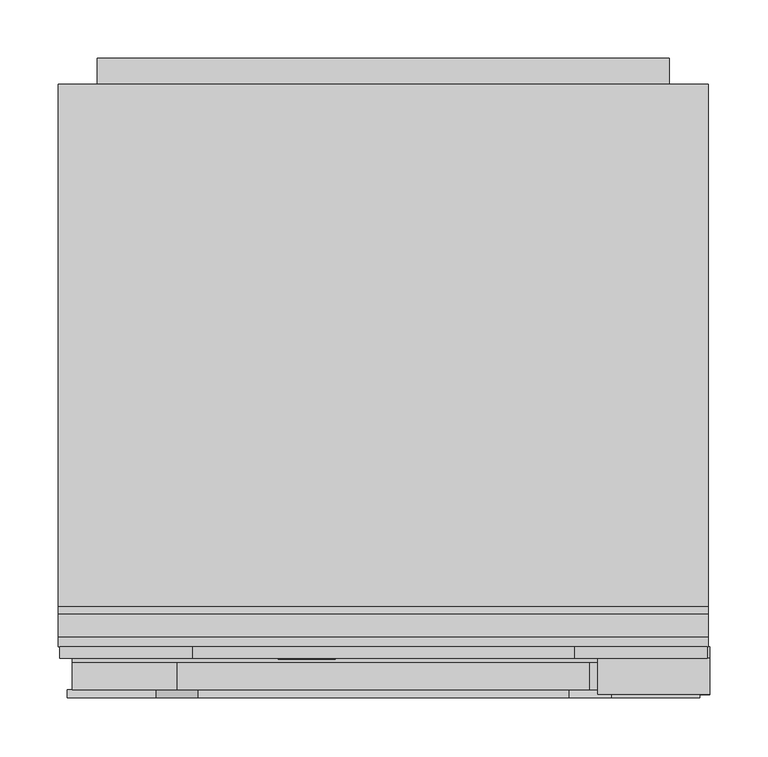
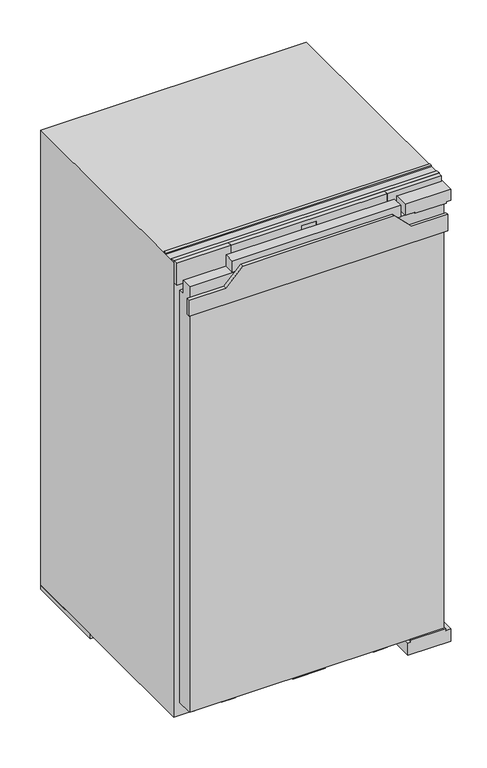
"""IFC4 building model written with IfcOpenShell, lengths in millimetres: proxy geometry, 11641020_EU1_K7234E : 36723400_EU1_11641020_K7234E."""

import ifcopenshell
import ifcopenshell.guid

model = None  # the IFC model being written
_history = None  # IfcOwnerHistory: only IFC2X3 demands one
_inside = {}  # id of a spatial element -> (the spatial element, [elements in it])
_under = {}  # id of a project, library or spatial element -> (it, [spatial elements below it])
_declared = {}  # id of a project -> (the project, [libraries it declares])
_typed = {}  # id of a type object -> (the type object, [elements of that type])
_made_of = {}  # id of a material, layer set ... -> (it, [elements and type objects made of it])


def new_model(schema):
    """Start an empty IFC model of exactly this schema.

    Asked for "IFC4X3", IfcOpenShell would pick the latest addendum, in which some entities
    have other attributes; the version numbers below select the first issue.
    IFC2X3 requires an IfcOwnerHistory on every rooted entity: one is made here for all.
    """
    global model, _history
    if schema == "IFC4X3":
        model = ifcopenshell.file(schema_version=(4, 3, 0, 0))
    else:
        model = ifcopenshell.file(schema=schema)
    _inside.clear()
    _under.clear()
    _declared.clear()
    _typed.clear()
    _made_of.clear()
    _history = None
    if model.schema == "IFC2X3":
        org = make("IfcOrganization", Name="unknown")
        user = make(
            "IfcPersonAndOrganization",
            ThePerson=make("IfcPerson", FamilyName="unknown"),
            TheOrganization=org,
        )
        app = make(
            "IfcApplication",
            ApplicationDeveloper=org,
            Version="unknown",
            ApplicationFullName="unknown",
            ApplicationIdentifier="unknown",
        )
        _history = make(
            "IfcOwnerHistory",
            OwningUser=user,
            OwningApplication=app,
            ChangeAction="ADDED",
            CreationDate=0,
        )
    return model


def make(cls, **values):
    """One entity of the class cls with the attributes given. An attribute that is None is left unset."""
    return model.create_entity(
        cls, **{name: value for name, value in values.items() if value is not None}
    )


def rooted(cls, **values):
    """An entity with a GlobalId (a new one), such as an element, a storey or a relation."""
    return make(cls, GlobalId=ifcopenshell.guid.new(), OwnerHistory=_history, **values)


def si_unit(unit_type, name, prefix=None):
    """IfcSIUnit, for example si_unit("LENGTHUNIT", "METRE", prefix="MILLI")."""
    return make("IfcSIUnit", UnitType=unit_type, Prefix=prefix, Name=name)


def assignment(units):
    """IfcUnitAssignment: the units of a project."""
    return None if units is None else make("IfcUnitAssignment", Units=units)


def point(xyz):
    """IfcCartesianPoint."""
    return None if xyz is None else make("IfcCartesianPoint", Coordinates=xyz)


def direction(xyz):
    """IfcDirection."""
    return None if xyz is None else make("IfcDirection", DirectionRatios=xyz)


def frame(location, z_axis=None, x_axis=None):
    """IfcAxis2Placement3D, a coordinate frame: its origin and axes. An axis left out is left unset."""
    return make(
        "IfcAxis2Placement3D",
        Location=point(location),
        Axis=direction(z_axis),
        RefDirection=direction(x_axis),
    )


def frame_2d(location, x_axis=None):
    """IfcAxis2Placement2D, a coordinate frame in the plane: its origin and x axis."""
    return make(
        "IfcAxis2Placement2D", Location=point(location), RefDirection=direction(x_axis)
    )


def origin():
    """The frame at (0, 0, 0) with its axes left unset."""
    return frame((0.0, 0.0, 0.0))


def origin_with_axes():
    """The frame at (0, 0, 0) with the z axis (0, 0, 1) and the x axis (1, 0, 0) written out."""
    return frame((0.0, 0.0, 0.0), z_axis=(0.0, 0.0, 1.0), x_axis=(1.0, 0.0, 0.0))


def place(relative_to, where):
    """IfcLocalPlacement: puts the frame where relative to a parent placement (None: the world)."""
    return make(
        "IfcLocalPlacement", PlacementRelTo=relative_to, RelativePlacement=where
    )


def context(
    kind, dimensions, precision=None, world=None, true_north=None, identifier=None
):
    """IfcGeometricRepresentationContext, for example the 3D "Model" context."""
    return make(
        "IfcGeometricRepresentationContext",
        ContextIdentifier=identifier,
        ContextType=kind,
        CoordinateSpaceDimension=dimensions,
        Precision=precision,
        WorldCoordinateSystem=world,
        TrueNorth=true_north,
    )


def project(units=None, contexts=None):
    """IfcProject with its units and contexts."""
    return rooted(
        "IfcProject",
        Name="project",
        RepresentationContexts=contexts,
        UnitsInContext=assignment(units),
    )


def spatial(cls, under=None, at=None, **own):
    """A site, building, storey or space (cls), placed at a placement, below another one or the project."""
    s = rooted(cls, ObjectPlacement=at, **own)
    if under is not None:
        _under.setdefault(under.id(), (under, []))[1].append(s)
    return s


def polyline(points):
    """IfcPolyline through the points."""
    return make("IfcPolyline", Points=[point(p) for p in points])


def circle_curve(where, radius):
    """IfcCircle in the frame where."""
    return make("IfcCircle", Position=where, Radius=radius)


def ellipse_curve(where, semi_axis1, semi_axis2):
    """IfcEllipse in the frame where."""
    return make(
        "IfcEllipse", Position=where, SemiAxis1=semi_axis1, SemiAxis2=semi_axis2
    )


def trimmed(basis, trim1, trim2, sense, master):
    """IfcTrimmedCurve: the piece of a basis curve between two trims."""
    return make(
        "IfcTrimmedCurve",
        BasisCurve=basis,
        Trim1=trim1,
        Trim2=trim2,
        SenseAgreement=sense,
        MasterRepresentation=master,
    )


def segment(curve, same_sense, transition):
    """IfcCompositeCurveSegment."""
    return make(
        "IfcCompositeCurveSegment",
        Transition=transition,
        SameSense=same_sense,
        ParentCurve=curve,
    )


def composite_curve(segments, self_intersect=None):
    """IfcCompositeCurve: segments joined end to end."""
    return make("IfcCompositeCurve", Segments=segments, SelfIntersect=self_intersect)


def outline(outer, holes=None, kind="AREA"):
    """IfcArbitraryClosedProfileDef: a profile drawn as a closed curve; with holes, ...WithVoids."""
    if holes is None:
        return make("IfcArbitraryClosedProfileDef", ProfileType=kind, OuterCurve=outer)
    return make(
        "IfcArbitraryProfileDefWithVoids",
        ProfileType=kind,
        OuterCurve=outer,
        InnerCurves=holes,
    )


def extrude(swept, where, along, depth):
    """IfcExtrudedAreaSolid: the profile swept, set in the frame where, extruded along a direction by depth."""
    return make(
        "IfcExtrudedAreaSolid",
        SweptArea=swept,
        Position=where,
        ExtrudedDirection=direction(along),
        Depth=depth,
    )


def faces_of(points, faces, orient=None, outer=None):
    """IfcFace entities. A face is a list of loops; a loop is a list of indices into points, from 0.

    orient and outer hold one flag for each loop. By default every Orientation is true, the
    first loop of a face is its IfcFaceOuterBound and the others are IfcFaceBound.
    """
    made = []
    for i, loops in enumerate(faces):
        bounds = []
        for j, loop in enumerate(loops):
            is_outer = j == 0 if outer is None else outer[i][j]
            bounds.append(
                make(
                    "IfcFaceOuterBound" if is_outer else "IfcFaceBound",
                    Bound=make("IfcPolyLoop", Polygon=[points[k] for k in loop]),
                    Orientation=True if orient is None else orient[i][j],
                )
            )
        made.append(make("IfcFace", Bounds=bounds))
    return made


def faceted_brep(points, faces, orient=None, outer=None, voids=None):
    """IfcFacetedBrep: a solid bounded by flat faces; with voids (closed shells), ...WithVoids."""
    shared = [point(p) for p in points]
    hull = make("IfcClosedShell", CfsFaces=faces_of(shared, faces, orient, outer))
    if voids is None:
        return make("IfcFacetedBrep", Outer=hull)
    return make(
        "IfcFacetedBrepWithVoids",
        Outer=hull,
        Voids=[
            make(cls, CfsFaces=faces_of(shared, fs, o, b)) for cls, fs, o, b in voids
        ],
    )


def shape(context_of_items, identifier, shape_type, items):
    """IfcShapeRepresentation: the items that make up one representation, for example the "Body"."""
    return make(
        "IfcShapeRepresentation",
        ContextOfItems=context_of_items,
        RepresentationIdentifier=identifier,
        RepresentationType=shape_type,
        Items=items,
    )


def source(mapping_origin, context_of_items, identifier, shape_type, items):
    """IfcRepresentationMap: a shape defined once, which mapped items show again and again."""
    return make(
        "IfcRepresentationMap",
        MappingOrigin=mapping_origin,
        MappedRepresentation=shape(context_of_items, identifier, shape_type, items),
    )


def transform(
    local_origin,
    x_axis=None,
    y_axis=None,
    z_axis=None,
    scale=None,
    scale2=None,
    scale3=None,
    uniform=True,
):
    """IfcCartesianTransformationOperator3D, or its non-uniform kind. x_axis, y_axis, z_axis: its Axis1, 2, 3."""
    if uniform:
        return make(
            "IfcCartesianTransformationOperator3D",
            Axis1=direction(x_axis),
            Axis2=direction(y_axis),
            LocalOrigin=point(local_origin),
            Scale=scale,
            Axis3=direction(z_axis),
        )
    return make(
        "IfcCartesianTransformationOperator3DnonUniform",
        Axis1=direction(x_axis),
        Axis2=direction(y_axis),
        LocalOrigin=point(local_origin),
        Scale=scale,
        Axis3=direction(z_axis),
        Scale2=scale2,
        Scale3=scale3,
    )


def mapped(mapping_source, mapping_target):
    """IfcMappedItem: shows the shape of a source again, moved by a transform."""
    return make(
        "IfcMappedItem", MappingSource=mapping_source, MappingTarget=mapping_target
    )


def made_of(thing, what):
    """Note that an element or type object is made of a material, layer set ...; save() writes the relation."""
    if what is not None:
        _made_of.setdefault(what.id(), (what, []))[1].append(thing)
    return thing


def element(
    cls,
    number,
    at=None,
    inside=None,
    cuts=None,
    type_object=None,
    material=None,
    context=None,
    identifier="Body",
    shape_type=None,
    held_by="IfcProductDefinitionShape",
    body=None,
    shapes=None,
    **own,
):
    """One element of the class cls, such as IfcWall. Its Tag is "e" and its number.

    at: its placement. inside: the storey or other place that contains it. cuts: it is an
    opening in that element (IfcRelVoidsElement). A single representation is given by context,
    identifier, shape_type and body (its items); several are given by shapes. held_by: the class
    of the entity that holds the representations. save() writes the other relations.
    """
    e = rooted(cls, Tag="e%d" % number, ObjectPlacement=at, **own)
    if body is not None:
        shapes = [shape(context, identifier, shape_type, body)]
    if shapes is not None:
        e.Representation = make(held_by, Representations=shapes)
    if inside is not None:
        _inside.setdefault(inside.id(), (inside, []))[1].append(e)
    if cuts is not None:
        rooted(
            "IfcRelVoidsElement", RelatingBuildingElement=cuts, RelatedOpeningElement=e
        )
    if type_object is not None:
        _typed.setdefault(type_object.id(), (type_object, []))[1].append(e)
    return made_of(e, material)


def aggregate(whole, parts):
    """IfcRelAggregates: a whole, such as a stair, and the parts it consists of."""
    return rooted("IfcRelAggregates", RelatingObject=whole, RelatedObjects=parts)


def save(model, path):
    """Write the relations noted so far, then the file.

    IfcRelAggregates (storeys below a building ...), IfcRelContainedInSpatialStructure (elements
    in a storey), IfcRelDefinesByType, IfcRelAssociatesMaterial and IfcRelDeclares: one each for
    every whole, place, type object, material and project.
    """
    for whole, parts in _under.values():
        aggregate(whole, parts)
    for where, things in _inside.values():
        rooted(
            "IfcRelContainedInSpatialStructure",
            RelatedElements=things,
            RelatingStructure=where,
        )
    for kind, things in _typed.values():
        rooted("IfcRelDefinesByType", RelatedObjects=things, RelatingType=kind)
    for what, things in _made_of.values():
        rooted("IfcRelAssociatesMaterial", RelatedObjects=things, RelatingMaterial=what)
    for by, libraries in _declared.values():
        rooted("IfcRelDeclares", RelatingContext=by, RelatedDefinitions=libraries)
    model.write(path)


def plane_surface(at):
    """IfcPlane: the flat surface through the origin of the frame at, square to its z axis."""
    return make("IfcPlane", Position=at)


def cylinder_surface(at, radius):
    """IfcCylindricalSurface: all points at the distance radius from the z axis of the frame at."""
    return make("IfcCylindricalSurface", Position=at, Radius=radius)


def revolved_surface(curve, axis_point, axis_direction):
    """IfcSurfaceOfRevolution: the curve turned about the line through axis_point along axis_direction."""
    return make(
        "IfcSurfaceOfRevolution",
        SweptCurve=make("IfcArbitraryOpenProfileDef", ProfileType="CURVE", Curve=curve),
        AxisPosition=make("IfcAxis1Placement", Location=point(axis_point), Axis=direction(axis_direction)),
    )


def extruded_surface(curve, direction_of_extrusion, depth):
    """IfcSurfaceOfLinearExtrusion: the curve pushed along a direction by depth."""
    return make(
        "IfcSurfaceOfLinearExtrusion",
        SweptCurve=make("IfcArbitraryOpenProfileDef", ProfileType="CURVE", Curve=curve),
        ExtrudedDirection=direction(direction_of_extrusion),
        Depth=depth,
    )


def advanced_brep(points, edges, surfaces, faces):
    """IfcAdvancedBrep: a solid bounded by faces that lie on surfaces and meet in shared edges.

    An edge is (start, end): straight between two places in points (the first is 0);
    or (start, end, curve); or (start, end, curve, False) where it runs against its curve.
    A face is (place in surfaces, loops), or (place, loops, False) where it looks against
    its surface's normal. A loop lists edges by number (the first is 1), with a minus sign
    where the edge is run from its end to its start. The first loop is the outer one.
    """
    corners = [point(p) for p in points]
    vertices = [make("IfcVertexPoint", VertexGeometry=c) for c in corners]
    made = []
    for start, end, *more in edges:
        made.append(
            make(
                "IfcEdgeCurve",
                EdgeStart=vertices[start],
                EdgeEnd=vertices[end],
                EdgeGeometry=more[0] if more else make("IfcPolyline", Points=[corners[start], corners[end]]),
                SameSense=more[1] if len(more) > 1 else True,
            )
        )
    hull = []
    for where, loops, *sense in faces:
        bounds = []
        for j, loop in enumerate(loops):
            ring = [make("IfcOrientedEdge", EdgeElement=made[abs(k) - 1], Orientation=k > 0) for k in loop]
            bounds.append(
                make(
                    "IfcFaceOuterBound" if j == 0 else "IfcFaceBound",
                    Bound=make("IfcEdgeLoop", EdgeList=ring),
                    Orientation=True,
                )
            )
        hull.append(make("IfcAdvancedFace", Bounds=bounds, FaceSurface=surfaces[where], SameSense=sense[0] if sense else True))
    return make("IfcAdvancedBrep", Outer=make("IfcClosedShell", CfsFaces=hull))


def specialty_equipment_facdcad3(model_context):
    return source(origin(), model_context, "Body", "SolidModel", [
        advanced_brep(
        [(-46.64, 33.0, 993.896), (-46.64, 33.0, 994.704), (-41.288, 33.0, 994.704), (-50.6, 33.0, 994.704), (-48.4, 33.0, 992.0), (-41.424, 33.0, 993.896), (-43.84, 33.0, 993.896), (-45.744, 33.0, 993.0), (-46.64, 33.0, 995.728), (-46.64, 33.0, 996.6), (-45.272, 33.0, 996.6), (-45.272, 33.0, 995.728), (-46.64, 34.0, 993.896), (-45.744, 34.0, 993.0), (-43.84, 34.0, 993.896), (-41.424, 34.0, 993.896), (-48.4, 34.0, 992.0), (-50.6, 34.0, 994.704), (-41.288, 34.0, 994.704), (-46.64, 34.0, 994.704), (-46.64, 34.0, 995.728), (-45.272, 34.0, 995.728), (-45.272, 34.0, 996.6), (-46.64, 34.0, 996.6)],
        [
            (0, 1),
            (1, 2),
            (2, 3, ellipse_curve(frame((-45.944, 33.0, 994.704), z_axis=(0.0, -1.0, 0.0), x_axis=(-1.0, 0.0, 0.0)), 4.656, 3.848)),
            (3, 4, circle_curve(frame((-47.5039564, 33.0, 994.976), z_axis=(0.0, -1.0, 0.0), x_axis=(0.0, 0.0, -1.0)), 3.1079688)),
            (4, 5, circle_curve(frame((-46.0372064, 33.0, 997.088), z_axis=(0.0, -1.0, 0.0), x_axis=(0.0, 0.0, -1.0)), 5.6098607)),
            (5, 6),
            (6, 7, circle_curve(frame((-45.3529412, 33.0, 994.64), z_axis=(0.0, 1.0, 0.0), x_axis=(0.0, 0.0, -1.0)), 1.6859795)),
            (7, 0, circle_curve(frame((-45.744, 33.0, 993.896), z_axis=(0.0, 1.0, 0.0), x_axis=(0.0, 0.0, -1.0)), 0.896)),
            (8, 9),
            (9, 10, circle_curve(frame((-45.956, 33.0, 996.6), z_axis=(0.0, 1.0, 0.0), x_axis=(0.0, 0.0, -1.0)), 0.684)),
            (10, 11),
            (11, 8),
            (12, 13, circle_curve(frame((-45.744, 34.0, 993.896), z_axis=(0.0, -1.0, 0.0), x_axis=(0.0, 0.0, -1.0)), 0.896)),
            (13, 14, circle_curve(frame((-45.3529412, 34.0, 994.64), z_axis=(0.0, -1.0, 0.0), x_axis=(0.0, 0.0, -1.0)), 1.6859795)),
            (14, 15),
            (15, 16, circle_curve(frame((-46.0372064, 34.0, 997.088), z_axis=(0.0, 1.0, 0.0), x_axis=(0.0, 0.0, -1.0)), 5.6098607)),
            (16, 17, circle_curve(frame((-47.5039564, 34.0, 994.976), z_axis=(0.0, 1.0, 0.0), x_axis=(0.0, 0.0, -1.0)), 3.1079688)),
            (17, 18, ellipse_curve(frame((-45.944, 34.0, 994.704), z_axis=(0.0, 1.0, 0.0), x_axis=(-1.0, 0.0, 0.0)), 4.656, 3.848)),
            (18, 19),
            (19, 12),
            (20, 21),
            (21, 22),
            (22, 23, circle_curve(frame((-45.956, 34.0, 996.6), z_axis=(0.0, -1.0, 0.0), x_axis=(0.0, 0.0, -1.0)), 0.684)),
            (23, 20),
            (0, 12),
            (19, 1),
            (18, 2),
            (5, 15),
            (14, 6),
            (17, 3),
            (13, 7),
            (16, 4),
            (8, 20),
            (23, 9),
            (22, 10),
            (21, 11),
        ],
        [
            plane_surface(frame((-46.64, 33.0, 994.704), z_axis=(0.0, -1.0, 0.0), x_axis=(0.0, 0.0, 1.0))),
            plane_surface(frame((-46.64, 34.0, 994.704), z_axis=(0.0, 1.0, 0.0), x_axis=(0.0, 0.0, -1.0))),
            plane_surface(frame((-46.64, 33.0, 993.896), z_axis=(1.0, 0.0, 0.0), x_axis=(0.0, 1.0, 0.0))),
            plane_surface(frame((-46.64, 33.0, 994.704), z_axis=(0.0, 0.0, -1.0), x_axis=(0.0, 1.0, 0.0))),
            plane_surface(frame((-41.424, 33.0, 993.896), z_axis=(0.0, 0.0, 1.0), x_axis=(0.0, 1.0, 0.0))),
            extruded_surface(trimmed(ellipse_curve(frame((-45.944, 35.0, 994.704), z_axis=(0.0, -1.0, 0.0), x_axis=(-1.0, 0.0, 0.0)), 4.656, 3.848), [point((-41.288, 35.0, 994.704))], [point((-50.6, 35.0, 994.704))], True, "CARTESIAN"), (0.0, -1.0, 0.0), 1.0),
            revolved_surface(polyline([(-45.3529412, 34.0, 992.9540205), (-45.3529412, 33.0, 992.9540205)]), (-45.3529412, 34.0, 994.64), (0.0, 1.0, 0.0)),
            revolved_surface(polyline([(-45.744, 34.0, 993.0), (-45.744, 33.0, 993.0)]), (-45.744, 34.0, 993.896), (0.0, 1.0, 0.0)),
            cylinder_surface(frame((-47.5039564, 34.0, 994.976), z_axis=(0.0, -1.0, 0.0), x_axis=(0.0, 0.0, -1.0)), 3.1079688),
            cylinder_surface(frame((-46.0372064, 34.0, 997.088), z_axis=(0.0, -1.0, 0.0), x_axis=(0.0, 0.0, -1.0)), 5.6098607),
            plane_surface(frame((-46.64, 33.0, 995.728), z_axis=(1.0, 0.0, 0.0), x_axis=(0.0, 1.0, 0.0))),
            revolved_surface(polyline([(-45.956, 34.0, 995.916), (-45.956, 33.0, 995.916)]), (-45.956, 34.0, 996.6), (0.0, 1.0, 0.0)),
            plane_surface(frame((-45.272, 33.0, 996.6), z_axis=(-1.0, 0.0, 0.0), x_axis=(0.0, 1.0, 0.0))),
            plane_surface(frame((-45.272, 33.0, 995.728), z_axis=(0.0, 0.0, 1.0), x_axis=(0.0, 1.0, 0.0))),
        ],
        [
            (0, [[1, 2, 3, 4, 5, 6, 7, 8], [9, 10, 11, 12]]),
            (1, [[13, 14, 15, 16, 17, 18, 19, 20], [21, 22, 23, 24]]),
            (2, [[-1, 25, -20, 26]]),
            (3, [[-2, -26, -19, 27]]),
            (4, [[-6, 28, -15, 29]]),
            (5, [[-3, -27, -18, 30]]),
            (6, [[-7, -29, -14, 31]]),
            (7, [[-8, -31, -13, -25]]),
            (8, [[-4, -30, -17, 32]]),
            (9, [[-5, -32, -16, -28]]),
            (10, [[-9, 33, -24, 34]]),
            (11, [[-10, -34, -23, 35]]),
            (12, [[-11, -35, -22, 36]]),
            (13, [[-12, -36, -21, -33]]),
        ],
    ),
        advanced_brep(
        [(-63.336, 33.0, 993.896), (-63.336, 33.0, 994.704), (-57.984, 33.0, 994.704), (-67.296, 33.0, 994.704), (-65.096, 33.0, 992.0), (-58.12, 33.0, 993.896), (-60.536, 33.0, 993.896), (-62.44, 33.0, 993.0), (-63.336, 33.0, 995.728), (-63.336, 33.0, 996.6), (-61.968, 33.0, 996.6), (-61.968, 33.0, 995.728), (-63.336, 34.0, 993.896), (-62.44, 34.0, 993.0), (-60.536, 34.0, 993.896), (-58.12, 34.0, 993.896), (-65.096, 34.0, 992.0), (-67.296, 34.0, 994.704), (-57.984, 34.0, 994.704), (-63.336, 34.0, 994.704), (-63.336, 34.0, 995.728), (-61.968, 34.0, 995.728), (-61.968, 34.0, 996.6), (-63.336, 34.0, 996.6)],
        [
            (0, 1),
            (1, 2),
            (2, 3, ellipse_curve(frame((-62.64, 33.0, 994.704), z_axis=(0.0, -1.0, 0.0), x_axis=(-1.0, 0.0, 0.0)), 4.656, 3.848)),
            (3, 4, circle_curve(frame((-64.1999564, 33.0, 994.976), z_axis=(0.0, -1.0, 0.0), x_axis=(0.0, 0.0, -1.0)), 3.1079688)),
            (4, 5, circle_curve(frame((-62.7332064, 33.0, 997.088), z_axis=(0.0, -1.0, 0.0), x_axis=(0.0, 0.0, -1.0)), 5.6098607)),
            (5, 6),
            (6, 7, circle_curve(frame((-62.0489412, 33.0, 994.64), z_axis=(0.0, 1.0, 0.0), x_axis=(0.0, 0.0, -1.0)), 1.6859795)),
            (7, 0, circle_curve(frame((-62.44, 33.0, 993.896), z_axis=(0.0, 1.0, 0.0), x_axis=(0.0, 0.0, -1.0)), 0.896)),
            (8, 9),
            (9, 10, circle_curve(frame((-62.652, 33.0, 996.6), z_axis=(0.0, 1.0, 0.0), x_axis=(0.0, 0.0, -1.0)), 0.684)),
            (10, 11),
            (11, 8),
            (12, 13, circle_curve(frame((-62.44, 34.0, 993.896), z_axis=(0.0, -1.0, 0.0), x_axis=(0.0, 0.0, -1.0)), 0.896)),
            (13, 14, circle_curve(frame((-62.0489412, 34.0, 994.64), z_axis=(0.0, -1.0, 0.0), x_axis=(0.0, 0.0, -1.0)), 1.6859795)),
            (14, 15),
            (15, 16, circle_curve(frame((-62.7332064, 34.0, 997.088), z_axis=(0.0, 1.0, 0.0), x_axis=(0.0, 0.0, -1.0)), 5.6098607)),
            (16, 17, circle_curve(frame((-64.1999564, 34.0, 994.976), z_axis=(0.0, 1.0, 0.0), x_axis=(0.0, 0.0, -1.0)), 3.1079688)),
            (17, 18, ellipse_curve(frame((-62.64, 34.0, 994.704), z_axis=(0.0, 1.0, 0.0), x_axis=(-1.0, 0.0, 0.0)), 4.656, 3.848)),
            (18, 19),
            (19, 12),
            (20, 21),
            (21, 22),
            (22, 23, circle_curve(frame((-62.652, 34.0, 996.6), z_axis=(0.0, -1.0, 0.0), x_axis=(0.0, 0.0, -1.0)), 0.684)),
            (23, 20),
            (0, 12),
            (19, 1),
            (18, 2),
            (5, 15),
            (14, 6),
            (17, 3),
            (13, 7),
            (16, 4),
            (8, 20),
            (23, 9),
            (22, 10),
            (21, 11),
        ],
        [
            plane_surface(frame((-63.336, 33.0, 994.704), z_axis=(0.0, -1.0, 0.0), x_axis=(0.0, 0.0, 1.0))),
            plane_surface(frame((-63.336, 34.0, 994.704), z_axis=(0.0, 1.0, 0.0), x_axis=(0.0, 0.0, -1.0))),
            plane_surface(frame((-63.336, 33.0, 993.896), z_axis=(1.0, 0.0, 0.0), x_axis=(0.0, 1.0, 0.0))),
            plane_surface(frame((-63.336, 33.0, 994.704), z_axis=(0.0, 0.0, -1.0), x_axis=(0.0, 1.0, 0.0))),
            plane_surface(frame((-58.12, 33.0, 993.896), z_axis=(0.0, 0.0, 1.0), x_axis=(0.0, 1.0, 0.0))),
            extruded_surface(trimmed(ellipse_curve(frame((-62.64, 35.0, 994.704), z_axis=(0.0, -1.0, 0.0), x_axis=(-1.0, 0.0, 0.0)), 4.656, 3.848), [point((-57.984, 35.0, 994.704))], [point((-67.296, 35.0, 994.704))], True, "CARTESIAN"), (0.0, -1.0, 0.0), 1.0),
            revolved_surface(polyline([(-62.0489412, 34.0, 992.9540205), (-62.0489412, 33.0, 992.9540205)]), (-62.0489412, 34.0, 994.64), (0.0, 1.0, 0.0)),
            revolved_surface(polyline([(-62.44, 34.0, 993.0), (-62.44, 33.0, 993.0)]), (-62.44, 34.0, 993.896), (0.0, 1.0, 0.0)),
            cylinder_surface(frame((-64.1999564, 34.0, 994.976), z_axis=(0.0, -1.0, 0.0), x_axis=(0.0, 0.0, -1.0)), 3.1079688),
            cylinder_surface(frame((-62.7332064, 34.0, 997.088), z_axis=(0.0, -1.0, 0.0), x_axis=(0.0, 0.0, -1.0)), 5.6098607),
            plane_surface(frame((-63.336, 33.0, 995.728), z_axis=(1.0, 0.0, 0.0), x_axis=(0.0, 1.0, 0.0))),
            revolved_surface(polyline([(-62.652, 34.0, 995.916), (-62.652, 33.0, 995.916)]), (-62.652, 34.0, 996.6), (0.0, 1.0, 0.0)),
            plane_surface(frame((-61.968, 33.0, 996.6), z_axis=(-1.0, 0.0, 0.0), x_axis=(0.0, 1.0, 0.0))),
            plane_surface(frame((-61.968, 33.0, 995.728), z_axis=(0.0, 0.0, 1.0), x_axis=(0.0, 1.0, 0.0))),
        ],
        [
            (0, [[1, 2, 3, 4, 5, 6, 7, 8], [9, 10, 11, 12]]),
            (1, [[13, 14, 15, 16, 17, 18, 19, 20], [21, 22, 23, 24]]),
            (2, [[-1, 25, -20, 26]]),
            (3, [[-2, -26, -19, 27]]),
            (4, [[-6, 28, -15, 29]]),
            (5, [[-3, -27, -18, 30]]),
            (6, [[-7, -29, -14, 31]]),
            (7, [[-8, -31, -13, -25]]),
            (8, [[-4, -30, -17, 32]]),
            (9, [[-5, -32, -16, -28]]),
            (10, [[-9, 33, -24, 34]]),
            (11, [[-10, -34, -23, 35]]),
            (12, [[-11, -35, -22, 36]]),
            (13, [[-12, -36, -21, -33]]),
        ],
    ),
        extrude(outline(polyline([(999.528, -72.08), (998.232, -71.472), (999.496, -68.76), (1000.792, -69.36), (999.528, -72.08)])), frame((0.0, 33.0, 0.0), z_axis=(0.0, 1.0, 0.0), x_axis=(0.0, 0.0, 1.0)), (0.0, 0.0, 1.0), 1.0),
        extrude(outline(polyline([(998.056, -74.056), (996.624, -74.056), (996.624, -73.104), (993.344, -73.104), (993.344, -74.056), (992.0, -74.056), (992.0, -67.744), (993.344, -67.744), (993.344, -68.672), (998.056, -68.672), (998.056, -74.056)])), frame((0.0, 33.0, 0.0), z_axis=(0.0, 1.0, 0.0), x_axis=(0.0, 0.0, 1.0)), (0.0, 0.0, 1.0), 1.0),
        extrude(outline(polyline([(998.696, -57.536), (998.696, -56.576), (993.344, -56.576), (993.344, -57.536), (992.0, -57.536), (992.0, -51.048), (993.344, -51.048), (993.344, -52.032), (1000.0, -52.032), (1000.0, -57.536), (998.696, -57.536)])), frame((0.0, 33.0, 0.0), z_axis=(0.0, 1.0, 0.0), x_axis=(0.0, 0.0, 1.0)), (0.0, 0.0, 1.0), 1.0),
        extrude(outline(polyline([(998.696, -90.0), (998.696, -89.032), (993.344, -89.032), (993.344, -90.0), (992.0, -90.0), (992.0, -86.48), (993.344, -86.48), (993.344, -87.44), (996.7471247, -87.44), (992.0, -83.864), (996.8152223, -80.272), (993.344, -80.272), (993.344, -81.256), (992.0, -81.256), (992.0, -74.872), (993.344, -74.872), (993.344, -75.888), (998.696, -75.888), (998.696, -74.872), (1000.0, -74.872), (1000.0, -79.744), (997.0, -82.08), (1000.0, -84.424), (1000.0, -90.0), (998.696, -90.0)])), frame((0.0, 33.0, 0.0), z_axis=(0.0, 1.0, 0.0), x_axis=(0.0, 0.0, 1.0)), (0.0, 0.0, 1.0), 1.0),
        faceted_brep([(163.5, 34.0, 1021.0), (-163.5, 34.0, 1021.0), (-163.5, 34.0, 972.0), (163.5, 34.0, 972.0), (15.0, 34.0, 1012.0), (15.0, 34.0, 982.0), (-15.0, 34.0, 982.0), (-15.0, 34.0, 1012.0), (163.5, 44.0, 1021.0), (163.5, 44.0, 972.0), (-163.5, 44.0, 972.0), (-163.5, 44.0, 1021.0), (15.0, 35.0, 1012.0), (-15.0, 35.0, 1012.0), (-15.0, 35.0, 982.0), (15.0, 35.0, 982.0)], [[[0, 1, 2, 3], [4, 5, 6, 7]], [[8, 9, 10, 11]], [[0, 3, 9, 8]], [[3, 2, 10, 9]], [[2, 1, 11, 10]], [[1, 0, 8, 11]], [[12, 13, 14, 15]], [[12, 15, 5, 4]], [[15, 14, 6, 5]], [[14, 13, 7, 6]], [[13, 12, 4, 7]]]),
        extrude(outline(polyline([(163.5, 44.0), (277.5, 44.0), (277.5, 34.0), (163.5, 34.0), (163.5, 44.0)])), frame((0.0, 0.0, 972.0), z_axis=(0.0, 0.0, 1.0), x_axis=(1.0, 0.0, 0.0)), (0.0, 0.0, 1.0), 49.0),
        extrude(outline(polyline([(-277.5, 44.0), (-163.5, 44.0), (-163.5, 34.0), (-277.5, 34.0), (-277.5, 44.0)])), frame((0.0, 0.0, 972.0), z_axis=(0.0, 0.0, 1.0), x_axis=(1.0, 0.0, 0.0)), (0.0, 0.0, 1.0), 49.0),
        extrude(outline(polyline([(-15.0, 35.0), (15.0, 35.0), (15.0, 34.0), (-15.0, 34.0), (-15.0, 35.0)])), frame((0.0, 0.0, 982.0), z_axis=(0.0, 0.0, 1.0), x_axis=(1.0, 0.0, 0.0)), (0.0, 0.0, 1.0), 30.0),
        extrude(outline(polyline([(976.0, -245.0), (27.0, -245.0), (27.0, 245.0), (130.0, 245.0), (130.0, 180.0), (160.0, 180.0), (160.0, 245.0), (976.0, 245.0), (976.0, -245.0)])), frame((0.0, 526.0, 0.0), z_axis=(0.0, 1.0, 0.0), x_axis=(0.0, 0.0, 1.0)), (0.0, 0.0, 1.0), 22.0),
        extrude(outline(polyline([(-144.9296686, 52.0), (-174.0, 52.0), (-194.4880722, 346.0), (-165.4177409, 346.0), (-144.9296686, 52.0)])), origin_with_axes(), (0.0, 0.0, 1.0), 9.0),
        extrude(outline(polyline([(144.9296686, 52.0), (165.4177409, 346.0), (194.4880722, 346.0), (174.0, 52.0), (144.9296686, 52.0)])), origin_with_axes(), (0.0, 0.0, 1.0), 9.0),
        extrude(outline(polyline([(539.651012, 148.8988246), (539.651012, 150.150839), (546.8850603, 150.150839), (546.8850603, 140.1043073), (539.5027529, 140.1043073), (539.5027529, 141.3585545), (545.6152499, 141.3585545), (545.6152499, 144.6556887), (539.967462, 144.6556887), (539.967462, 145.9162842), (545.6270824, 145.9162842), (545.6270824, 148.8988246), (539.651012, 148.8988246)])), frame((193.5, 0.0, 0.0), z_axis=(1.0, 0.0, 0.0), x_axis=(0.0, 1.0, 0.0)), (0.0, 0.0, 1.0), 1.0),
        extrude(outline(polyline([(537.624075, 150.150839), (537.624075, 140.1043073), (531.3334819, 140.1043073), (531.3334819, 141.3573374), (536.3334819, 141.3573374), (536.3334819, 150.150839), (537.624075, 150.150839)])), frame((193.5, 0.0, 0.0), z_axis=(1.0, 0.0, 0.0), x_axis=(0.0, 1.0, 0.0)), (0.0, 0.0, 1.0), 1.0),
        advanced_brep(
        [(232.0, 526.0, 145.0), (217.0, 526.0, 145.0), (232.0, 547.5, 145.0), (217.0, 532.5, 145.0), (194.5, 547.5, 145.0), (194.5, 532.5, 145.0)],
        [
            (0, 1, circle_curve(frame((224.5, 526.0, 145.0), z_axis=(0.0, -1.0, 0.0), x_axis=(-1.0, 0.0, 0.0)), 7.5)),
            (1, 0, circle_curve(frame((224.5, 526.0, 145.0), z_axis=(0.0, -1.0, 0.0), x_axis=(-1.0, 0.0, 0.0)), 7.5)),
            (0, 2),
            (2, 3, ellipse_curve(frame((224.5, 540.0, 145.0), z_axis=(0.7071067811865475, -0.7071067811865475, 0.0), x_axis=(-0.7071067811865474, -0.7071067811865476, 0.0)), 10.6066017, 7.5)),
            (3, 1),
            (3, 2, ellipse_curve(frame((224.5, 540.0, 145.0), z_axis=(0.7071067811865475, -0.7071067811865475, 0.0), x_axis=(-0.7071067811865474, -0.7071067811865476, 0.0)), 10.6066017, 7.5)),
            (4, 5, circle_curve(frame((194.5, 540.0, 145.0), z_axis=(-1.0, 0.0, 0.0), x_axis=(0.0, -1.0, 0.0)), 7.5)),
            (5, 4, circle_curve(frame((194.5, 540.0, 145.0), z_axis=(-1.0, 0.0, 0.0), x_axis=(0.0, -1.0, 0.0)), 7.5)),
            (2, 4),
            (5, 3),
        ],
        [
            plane_surface(frame((224.5, 526.0, 145.0), z_axis=(0.0, -1.0, 0.0), x_axis=(0.0, 0.0, 1.0))),
            cylinder_surface(frame((224.5, 526.0, 145.0), z_axis=(0.0, -1.0, 0.0), x_axis=(-1.0, 0.0, 0.0)), 7.5),
            plane_surface(frame((194.5, 540.0, 145.0), z_axis=(-1.0, 0.0, 0.0), x_axis=(0.0, 0.0, 1.0))),
            cylinder_surface(frame((224.5, 540.0, 145.0), z_axis=(1.0, 0.0, 0.0), x_axis=(0.0, -1.0, 0.0)), 7.5),
        ],
        [
            (0, [[1, 2]]),
            (1, [[-1, 3, 4, 5]]),
            (1, [[-2, -5, 6, -3]]),
            (2, [[7, 8]]),
            (3, [[-4, 9, -8, 10]]),
            (3, [[-6, -10, -7, -9]]),
        ],
    ),
        extrude(outline(polyline([(-34.0, 44.0), (34.0, 44.0), (34.0, 35.0), (-34.0, 35.0), (-34.0, 44.0)])), frame((0.0, 0.0, 13.0), z_axis=(0.0, 0.0, 1.0), x_axis=(1.0, 0.0, 0.0)), (0.0, 0.0, 1.0), 19.0),
        extrude(outline(polyline([(-233.5, 44.0), (-233.5, 488.0), (233.5, 488.0), (233.5, 44.0), (-233.5, 44.0)])), frame((0.0, 0.0, 257.0), z_axis=(0.0, 0.0, 1.0), x_axis=(1.0, 0.0, 0.0)), (0.0, 0.0, 1.0), 3.0),
        extrude(outline(polyline([(-233.5, 180.0), (-233.5, 488.0), (233.5, 488.0), (233.5, 180.0), (-233.5, 180.0)])), frame((0.0, 0.0, 722.0), z_axis=(0.0, 0.0, 1.0), x_axis=(1.0, 0.0, 0.0)), (0.0, 0.0, 1.0), 221.0),
        extrude(outline(polyline([(-233.5, 350.0), (-233.5, 488.0), (233.5, 488.0), (233.5, 350.0), (-233.5, 350.0)])), frame((0.0, 0.0, 60.0), z_axis=(0.0, 0.0, 1.0), x_axis=(1.0, 0.0, 0.0)), (0.0, 0.0, 1.0), 188.0),
        extrude(outline(composite_curve([segment(trimmed(circle_curve(frame_2d((228.0, 64.0)), 11.0), [point((239.0, 64.0))], [point((217.0, 64.0))], False, "CARTESIAN"), True, "CONTINUOUS"), segment(trimmed(circle_curve(frame_2d((228.0, 64.0)), 11.0), [point((217.0, 64.0))], [point((239.0, 64.0))], False, "CARTESIAN"), True, "CONTINUOUS")], self_intersect=False)), origin_with_axes(), (0.0, 0.0, 1.0), 9.0),
        extrude(outline(composite_curve([segment(trimmed(circle_curve(frame_2d((-228.0, 64.0)), 11.0), [point((-217.0, 64.0))], [point((-239.0, 64.0))], False, "CARTESIAN"), True, "CONTINUOUS"), segment(trimmed(circle_curve(frame_2d((-228.0, 64.0)), 11.0), [point((-239.0, 64.0))], [point((-217.0, 64.0))], False, "CARTESIAN"), True, "CONTINUOUS")], self_intersect=False)), origin_with_axes(), (0.0, 0.0, 1.0), 9.0),
        extrude(outline(polyline([(278.5, 526.0), (278.5, 346.0), (-278.5, 346.0), (-278.5, 526.0), (278.5, 526.0)])), origin_with_axes(), (0.0, 0.0, 1.0), 9.0),
        extrude(outline(polyline([(278.5, 52.0), (278.5, 44.0), (-278.5, 44.0), (-278.5, 52.0), (278.5, 52.0)])), frame((0.0, 0.0, 1018.0), z_axis=(0.0, 0.0, 1.0), x_axis=(1.0, 0.0, 0.0)), (0.0, 0.0, 1.0), 3.0),
        extrude(outline(polyline([(278.5, 78.0), (278.5, 72.0), (-278.5, 72.0), (-278.5, 78.0), (278.5, 78.0)])), frame((0.0, 0.0, 1018.0), z_axis=(0.0, 0.0, 1.0), x_axis=(1.0, 0.0, 0.0)), (0.0, 0.0, 1.0), 3.0),
        faceted_brep([(278.5, 526.0, 1018.0), (-278.5, 526.0, 1018.0), (-278.5, 44.0, 1018.0), (278.5, 44.0, 1018.0), (278.5, 526.0, 9.0), (278.5, 44.0, 9.0), (-278.5, 44.0, 9.0), (-278.5, 526.0, 9.0), (233.5, 44.0, 60.0), (-233.5, 44.0, 60.0), (-233.5, 44.0, 64.0), (-233.5, 44.0, 570.0), (-233.5, 44.0, 943.0), (233.5, 44.0, 943.0), (233.5, 44.0, 570.0), (233.5, 44.0, 64.0), (233.5, 488.0, 943.0), (-233.5, 488.0, 943.0), (-233.5, 488.0, 570.0), (-233.5, 488.0, 64.0), (-233.5, 488.0, 60.0), (233.5, 488.0, 60.0), (233.5, 488.0, 64.0), (233.5, 488.0, 570.0)], [[[0, 1, 2, 3]], [[4, 5, 6, 7]], [[1, 0, 4, 7]], [[2, 1, 7, 6]], [[3, 2, 6, 5], [8, 9, 10, 11, 12, 13, 14, 15]], [[0, 3, 5, 4]], [[16, 17, 18, 19, 20, 21, 22, 23]], [[21, 8, 15, 14, 13, 16, 23, 22]], [[21, 20, 9, 8]], [[9, 20, 19, 18, 17, 12, 11, 10]], [[17, 16, 13, 12]]]),
        extrude(outline(polyline([(922.0, 271.0), (958.0, 271.0), (958.0, 195.0), (994.0, 159.0), (994.0, -159.0), (958.0, -195.0), (958.0, -271.0), (922.0, -271.0), (922.0, 271.0)])), frame((0.0, 0.0, 0.0), z_axis=(0.0, 1.0, 0.0), x_axis=(0.0, 0.0, 1.0)), (0.0, 0.0, 1.0), 7.0),
        extrude(outline(polyline([(176.5, 7.0), (-176.5, 7.0), (-176.5, 30.0), (176.5, 30.0), (176.5, 7.0)])), frame((0.0, 0.0, 982.0), z_axis=(0.0, 0.0, 1.0), x_axis=(1.0, 0.0, 0.0)), (0.0, 0.0, 1.0), 25.0),
        extrude(outline(polyline([(7.0, 38.0), (7.0, 982.0), (30.0, 982.0), (30.0, 952.0), (44.0, 952.0), (44.0, 38.0), (7.0, 38.0)])), frame((-266.5, 0.0, 0.0), z_axis=(1.0, 0.0, 0.0), x_axis=(0.0, 1.0, 0.0)), (0.0, 0.0, 1.0), 533.0),
        extrude(outline(polyline([(34.0, 189.5), (7.0, 189.5), (7.0, 279.5), (34.0, 279.5), (34.0, 268.5), (38.0, 268.5), (38.0, 195.5), (34.0, 195.5), (34.0, 189.5)])), frame((0.0, 3.0, 0.0), z_axis=(0.0, 1.0, 0.0), x_axis=(0.0, 0.0, 1.0)), (0.0, 0.0, 1.0), 41.0),
        extrude(outline(polyline([(982.0, 203.5), (982.0, 269.5), (985.0, 269.5), (985.0, 279.5), (1009.0, 279.5), (1009.0, 183.5), (985.0, 183.5), (985.0, 203.5), (982.0, 203.5)])), frame((0.0, 3.0, 0.0), z_axis=(0.0, 1.0, 0.0), x_axis=(0.0, 0.0, 1.0)), (0.0, 0.0, 1.0), 31.0),
    ])


if __name__ == "__main__":
    model = new_model("IFC4")
    model_context = context("Model", 3, world=origin())
    ifc_project = project(units=[si_unit("LENGTHUNIT", "METRE", prefix="MILLI")], contexts=[model_context])
    site = spatial("IfcSite", under=ifc_project)
    building = spatial("IfcBuilding", under=site)
    placement = place(None, origin())
    specialty_equipment_shape = specialty_equipment_facdcad3(model_context)
    element("IfcBuildingElementProxy", 1, Name="11641020_EU1_K7234E : 36723400_EU1_11641020_K7234E", ObjectType="11641020_EU1_K7234E : 36723400_EU1_11641020_K7234E", at=placement, inside=building, context=model_context, shape_type="MappedRepresentation", body=[
        mapped(specialty_equipment_shape, transform((0.0, 0.0, 0.0), x_axis=(1.0, 0.0, 0.0), y_axis=(0.0, 1.0, 0.0), z_axis=(0.0, 0.0, 1.0))),
    ])
    save(model, "model.ifc")
